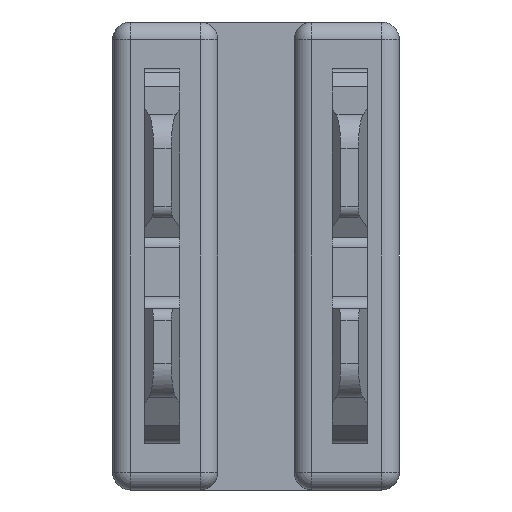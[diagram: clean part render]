
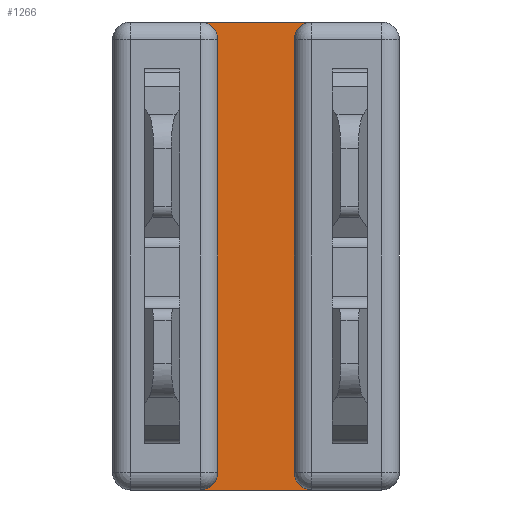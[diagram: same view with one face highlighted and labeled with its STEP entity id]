
A CAD part, front view. The second image highlights one B-rep face of the part: STEP entity #1266.
In plain terms, the highlighted planar face has unit normal (0, -1, 0).
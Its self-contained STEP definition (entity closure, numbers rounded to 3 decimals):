
#47 = DIRECTION ( 'NONE',  ( 1., 0., 0. ) ) ;
#653 = DIRECTION ( 'NONE',  ( 0., 0., -1. ) ) ;
#722 = DIRECTION ( 'NONE',  ( 0., -1., 0. ) ) ;
#1261 = VERTEX_POINT ( 'NONE', #13684 ) ;
#1266 = ADVANCED_FACE ( 'NONE', ( #4743 ), #2330, .T. ) ;
#1276 = CARTESIAN_POINT ( 'NONE',  ( -0.95, -4.5, -0.3 ) ) ;
#1286 = VERTEX_POINT ( 'NONE', #12470 ) ;
#1325 = DIRECTION ( 'NONE',  ( 0., 1., 0. ) ) ;
#1406 = CARTESIAN_POINT ( 'NONE',  ( 0.95, -4.5, -7.7 ) ) ;
#1939 = EDGE_CURVE ( 'NONE', #9679, #7269, #8153, .T. ) ;
#1957 = EDGE_CURVE ( 'NONE', #8470, #14288, #3815, .T. ) ;
#2330 = PLANE ( 'NONE',  #5064 ) ;
#2421 = ORIENTED_EDGE ( 'NONE', *, *, #14625, .T. ) ;
#2738 = DIRECTION ( 'NONE',  ( 0., 0., -1. ) ) ;
#2752 = LINE ( 'NONE', #8839, #17024 ) ;
#3043 = CARTESIAN_POINT ( 'NONE',  ( 0.95, -4.5, -0.3 ) ) ;
#3158 = ORIENTED_EDGE ( 'NONE', *, *, #1957, .F. ) ;
#3214 = ORIENTED_EDGE ( 'NONE', *, *, #18943, .T. ) ;
#3318 = VERTEX_POINT ( 'NONE', #9809 ) ;
#3343 = AXIS2_PLACEMENT_3D ( 'NONE', #1276, #4239, #16121 ) ;
#3585 = VECTOR ( 'NONE', #47, 1000. ) ;
#3815 = LINE ( 'NONE', #17681, #3585 ) ;
#4239 = DIRECTION ( 'NONE',  ( 0., 1., 0. ) ) ;
#4743 = FACE_OUTER_BOUND ( 'NONE', #9270, .T. ) ;
#4937 = EDGE_CURVE ( 'NONE', #1286, #9679, #17528, .T. ) ;
#5025 = ORIENTED_EDGE ( 'NONE', *, *, #11526, .T. ) ;
#5064 = AXIS2_PLACEMENT_3D ( 'NONE', #5327, #722, #653 ) ;
#5309 = CARTESIAN_POINT ( 'NONE',  ( 0.65, -4.5, -8. ) ) ;
#5327 = CARTESIAN_POINT ( 'NONE',  ( 0.65, -4.5, -8. ) ) ;
#5375 = AXIS2_PLACEMENT_3D ( 'NONE', #3043, #16154, #11897 ) ;
#5559 = DIRECTION ( 'NONE',  ( 0., 1., 0. ) ) ;
#5619 = CARTESIAN_POINT ( 'NONE',  ( -0.95, -4.5, 0. ) ) ;
#6204 = DIRECTION ( 'NONE',  ( 0., 0., 1. ) ) ;
#6831 = AXIS2_PLACEMENT_3D ( 'NONE', #1406, #5559, #7028 ) ;
#7028 = DIRECTION ( 'NONE',  ( 0., 0., -1. ) ) ;
#7269 = VERTEX_POINT ( 'NONE', #7605 ) ;
#7605 = CARTESIAN_POINT ( 'NONE',  ( 0.65, -4.5, -0.3 ) ) ;
#7943 = VECTOR ( 'NONE', #6204, 1000. ) ;
#8153 = LINE ( 'NONE', #5309, #11616 ) ;
#8470 = VERTEX_POINT ( 'NONE', #5619 ) ;
#8804 = CIRCLE ( 'NONE', #5375, 0.3 ) ;
#8839 = CARTESIAN_POINT ( 'NONE',  ( 0.65, -4.5, -8. ) ) ;
#8890 = AXIS2_PLACEMENT_3D ( 'NONE', #15970, #1325, #2738 ) ;
#9270 = EDGE_LOOP ( 'NONE', ( #3158, #10230, #14884, #3214, #2421, #16846, #13265, #5025 ) ) ;
#9679 = VERTEX_POINT ( 'NONE', #10642 ) ;
#9809 = CARTESIAN_POINT ( 'NONE',  ( -0.65, -4.5, -0.3 ) ) ;
#9937 = DIRECTION ( 'NONE',  ( 0., 0., 1. ) ) ;
#10230 = ORIENTED_EDGE ( 'NONE', *, *, #15474, .T. ) ;
#10291 = CIRCLE ( 'NONE', #3343, 0.3 ) ;
#10320 = DIRECTION ( 'NONE',  ( 1., 0., 0. ) ) ;
#10642 = CARTESIAN_POINT ( 'NONE',  ( 0.65, -4.5, -7.7 ) ) ;
#11526 = EDGE_CURVE ( 'NONE', #7269, #14288, #8804, .T. ) ;
#11616 = VECTOR ( 'NONE', #9937, 1000. ) ;
#11897 = DIRECTION ( 'NONE',  ( 0., 0., -1. ) ) ;
#12470 = CARTESIAN_POINT ( 'NONE',  ( 0.95, -4.5, -8. ) ) ;
#13265 = ORIENTED_EDGE ( 'NONE', *, *, #1939, .T. ) ;
#13536 = CARTESIAN_POINT ( 'NONE',  ( -0.65, -4.5, -8. ) ) ;
#13627 = VERTEX_POINT ( 'NONE', #13789 ) ;
#13684 = CARTESIAN_POINT ( 'NONE',  ( -0.95, -4.5, -8. ) ) ;
#13789 = CARTESIAN_POINT ( 'NONE',  ( -0.65, -4.5, -7.7 ) ) ;
#14288 = VERTEX_POINT ( 'NONE', #17136 ) ;
#14625 = EDGE_CURVE ( 'NONE', #1261, #1286, #2752, .T. ) ;
#14884 = ORIENTED_EDGE ( 'NONE', *, *, #17710, .F. ) ;
#15474 = EDGE_CURVE ( 'NONE', #8470, #3318, #10291, .T. ) ;
#15970 = CARTESIAN_POINT ( 'NONE',  ( -0.95, -4.5, -7.7 ) ) ;
#16121 = DIRECTION ( 'NONE',  ( 0., 0., -1. ) ) ;
#16154 = DIRECTION ( 'NONE',  ( 0., 1., 0. ) ) ;
#16471 = LINE ( 'NONE', #13536, #7943 ) ;
#16846 = ORIENTED_EDGE ( 'NONE', *, *, #4937, .T. ) ;
#17024 = VECTOR ( 'NONE', #10320, 1000. ) ;
#17136 = CARTESIAN_POINT ( 'NONE',  ( 0.95, -4.5, 0. ) ) ;
#17528 = CIRCLE ( 'NONE', #6831, 0.3 ) ;
#17681 = CARTESIAN_POINT ( 'NONE',  ( 0.65, -4.5, 0. ) ) ;
#17710 = EDGE_CURVE ( 'NONE', #13627, #3318, #16471, .T. ) ;
#18678 = CIRCLE ( 'NONE', #8890, 0.3 ) ;
#18943 = EDGE_CURVE ( 'NONE', #13627, #1261, #18678, .T. ) ;
